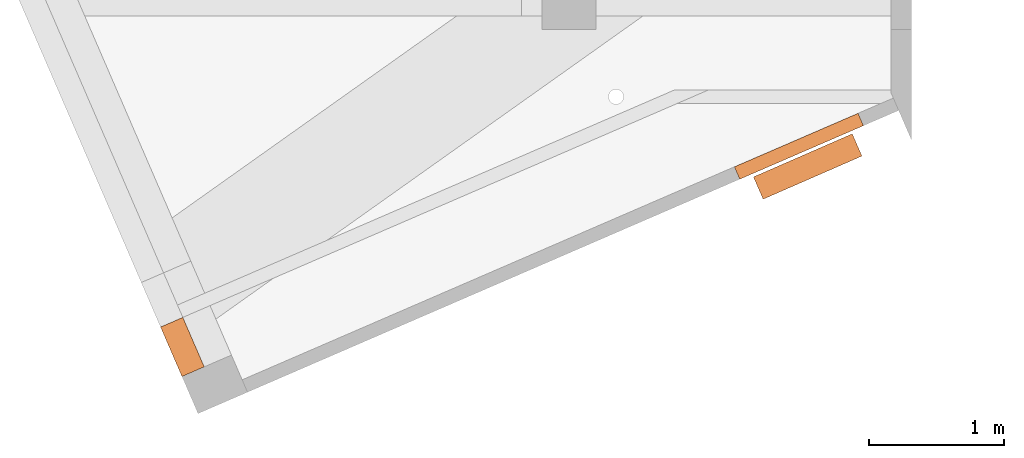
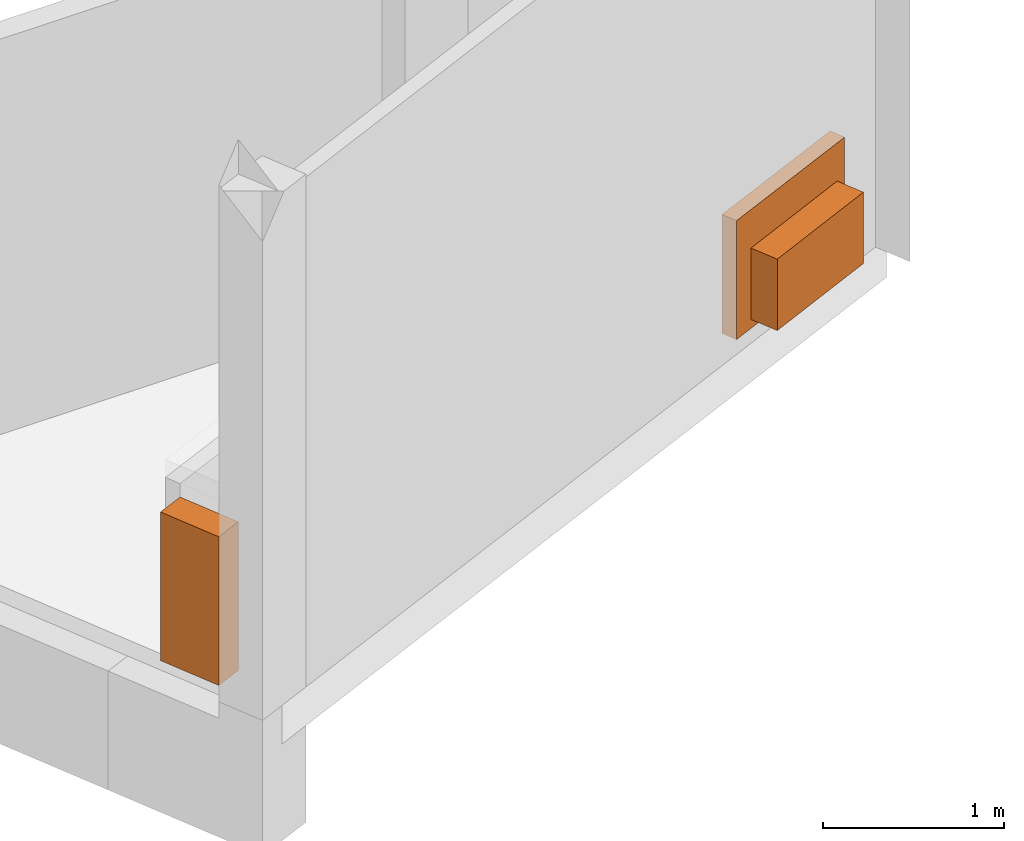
# One storey, part 6 of 6: 3 proxies.
"""IFC2X3 building model written with IfcOpenShell, lengths in centimetres."""

from ifc_helpers import new_model, entity, si_unit, converted_unit, derived_unit, direction, frame, frame_2d, origin, place, context, subcontext, project, spatial, rectangle, extrude, source, transform, mapped, material, type_object, type_shapes, element, save


model = new_model("IFC2X3")

# Units and contexts
model_context = context("Model", 3, precision=0.001, world=origin(), true_north=direction((6.12303176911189e-17, 1.0)))
body_context = subcontext(model_context, "Body", "Model", "MODEL_VIEW")
ifc_project = project(units=[si_unit("LENGTHUNIT", "METRE", prefix="CENTI"), si_unit("AREAUNIT", "SQUARE_METRE"), si_unit("VOLUMEUNIT", "CUBIC_METRE"), converted_unit("PLANEANGLEUNIT", "DEGREE", entity("IfcRatioMeasure", 0.0174532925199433), si_unit("PLANEANGLEUNIT", "RADIAN"), dimensions=[0, 0, 0, 0, 0, 0, 0]), si_unit("MASSUNIT", "GRAM", prefix="KILO"), derived_unit("MASSDENSITYUNIT", [(si_unit("MASSUNIT", "GRAM", prefix="KILO"), 1), (si_unit("LENGTHUNIT", "METRE"), -3)]), si_unit("TIMEUNIT", "SECOND"), si_unit("FREQUENCYUNIT", "HERTZ"), si_unit("THERMODYNAMICTEMPERATUREUNIT", "DEGREE_CELSIUS"), derived_unit("THERMALTRANSMITTANCEUNIT", [(si_unit("MASSUNIT", "GRAM", prefix="KILO"), 1), (si_unit("THERMODYNAMICTEMPERATUREUNIT", "KELVIN"), -1), (si_unit("TIMEUNIT", "SECOND"), -3)]), derived_unit("VOLUMETRICFLOWRATEUNIT", [(si_unit("LENGTHUNIT", "METRE"), 3), (si_unit("TIMEUNIT", "SECOND"), -1)]), si_unit("ELECTRICCURRENTUNIT", "AMPERE"), si_unit("ELECTRICVOLTAGEUNIT", "VOLT"), si_unit("POWERUNIT", "WATT"), si_unit("FORCEUNIT", "NEWTON"), si_unit("ILLUMINANCEUNIT", "LUX"), si_unit("LUMINOUSFLUXUNIT", "LUMEN"), si_unit("LUMINOUSINTENSITYUNIT", "CANDELA"), derived_unit("USERDEFINED", [(si_unit("MASSUNIT", "GRAM", prefix="KILO"), -1), (si_unit("LENGTHUNIT", "METRE"), -2), (si_unit("TIMEUNIT", "SECOND"), 3), (si_unit("LUMINOUSFLUXUNIT", "LUMEN"), 1)]), derived_unit("LINEARVELOCITYUNIT", [(si_unit("LENGTHUNIT", "METRE"), 1), (si_unit("TIMEUNIT", "SECOND"), -1)]), si_unit("PRESSUREUNIT", "PASCAL"), derived_unit("USERDEFINED", [(si_unit("LENGTHUNIT", "METRE"), -2), (si_unit("MASSUNIT", "GRAM", prefix="KILO"), 1), (si_unit("TIMEUNIT", "SECOND"), -2)])], contexts=[model_context])

# Site, building, storey
site_placement = place(None, origin())
site = spatial("IfcSite", under=ifc_project, at=site_placement, Name="Default", CompositionType="ELEMENT")
building_placement = place(site_placement, origin())
building = spatial("IfcBuilding", under=site, at=building_placement, Name="CAGE 03", CompositionType="ELEMENT")
storey_placement = place(building_placement, frame((0.0, 0.0, -23.0)))
storey = spatial("IfcBuildingStorey", under=building, at=storey_placement, Name="+3.77", CompositionType="ELEMENT", Elevation=-23.0000000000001)

# Proxies
ifc_material = material(Name="BBGO_Résa")
building_element_proxy_type_1 = type_object("IfcBuildingElementProxyType", Name="Réservation", PredefinedType="NOTDEFINED", material=ifc_material)
shared_shape_1 = source(origin(), body_context, "Body", "SweptSolid", [
    extrude(rectangle(XDim=17.9999999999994, YDim=79.9999999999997, at=frame_2d((2.99149048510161, -1.75042202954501e-11), x_axis=(1.0, 0.0))), frame((3862.785704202, 3687.17148808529, -9.0), z_axis=(0.0, 0.0, 1.0), x_axis=(-0.400141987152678, 0.916453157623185, 0.0)), (0.0, 0.0, 1.0), 48.0),
])
type_shapes(building_element_proxy_type_1, [shared_shape_1])
proxy_1_placement = place(storey_placement, frame((0.0, 0.0, 23.0)))
element("IfcBuildingElementProxy", 1, at=proxy_1_placement, inside=storey, type_object=building_element_proxy_type_1, material=ifc_material, Name="BBGO-Résa rect et circ:Réservation", ObjectType="Réservation", context=body_context, shape_type="MappedRepresentation", body=[
    mapped(shared_shape_1, transform((0.0, 0.0, 0.0), scale=1.0)),
])
building_element_proxy_type_2 = type_object("IfcBuildingElementProxyType", Name="Réservation", PredefinedType="NOTDEFINED", material=ifc_material)
shared_shape_2 = source(origin(), body_context, "Body", "SweptSolid", [
    extrude(rectangle(XDim=18.0000000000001, YDim=40.0000000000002, at=frame_2d((1.98951966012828e-13, -8.70414851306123e-14), x_axis=(1.0, 0.0))), frame((3397.58363301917, 3556.02634741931, -17.0), z_axis=(0.0, 0.0, 1.0), x_axis=(0.917772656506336, 0.397106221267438, 0.0)), (0.0, 0.0, 1.0), 100.0),
])
type_shapes(building_element_proxy_type_2, [shared_shape_2])
proxy_2_placement = place(storey_placement, frame((0.0, 0.0, 23.0)))
element("IfcBuildingElementProxy", 2, at=proxy_2_placement, inside=storey, type_object=building_element_proxy_type_2, material=ifc_material, Name="BBGO-Résa rect et circ:Réservation", ObjectType="Réservation", context=body_context, shape_type="MappedRepresentation", body=[
    mapped(shared_shape_2, transform((0.0, 0.0, 0.0), scale=1.0)),
])
building_element_proxy_type_3 = type_object("IfcBuildingElementProxyType", Name="Réservation", PredefinedType="NOTDEFINED", material=ifc_material)
shared_shape_3 = source(origin(), body_context, "Body", "SweptSolid", [
    extrude(rectangle(XDim=10.0000000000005, YDim=100.0, at=frame_2d((-2.8332891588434e-13, -1.13686837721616e-13), x_axis=(1.0, 0.0))), frame((3855.06651544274, 3704.94045786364, -18.0), z_axis=(0.0, 0.0, 1.0), x_axis=(0.397106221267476, -0.917772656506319, 0.0)), (0.0, 0.0, 1.0), 80.0),
])
type_shapes(building_element_proxy_type_3, [shared_shape_3])
proxy_3_placement = place(storey_placement, frame((0.0, 0.0, 23.0)))
element("IfcBuildingElementProxy", 3, at=proxy_3_placement, inside=storey, type_object=building_element_proxy_type_3, material=ifc_material, Name="BBGO-Résa rect et circ:Réservation", ObjectType="Réservation", context=body_context, shape_type="MappedRepresentation", body=[
    mapped(shared_shape_3, transform((0.0, 0.0, 0.0), scale=1.0)),
])

save(model, "model.ifc")
